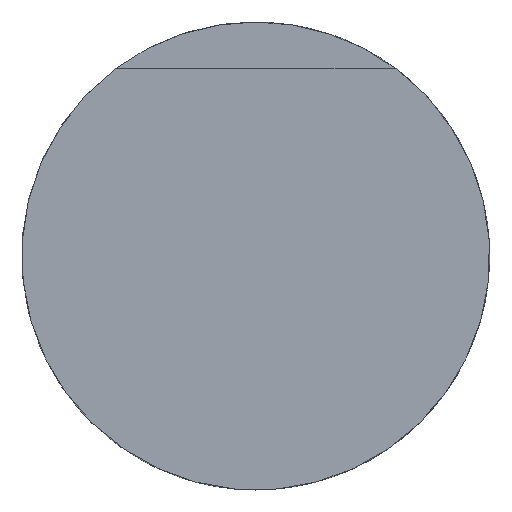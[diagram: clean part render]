
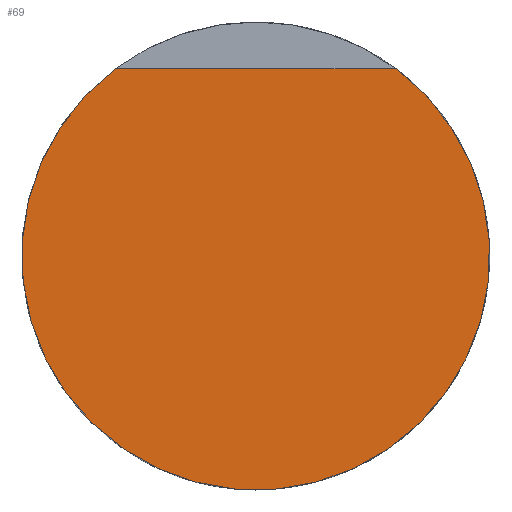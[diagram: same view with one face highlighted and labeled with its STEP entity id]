
A CAD part, front view. The second image highlights one B-rep face of the part: STEP entity #69.
In plain terms, the highlighted planar face has unit normal (0, -1, 0).
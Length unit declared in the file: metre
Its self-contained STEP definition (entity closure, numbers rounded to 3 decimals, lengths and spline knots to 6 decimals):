
#14=LINE('',#121,#18);
#18=VECTOR('',#101,1.);
#28=ORIENTED_EDGE('',*,*,#37,.F.);
#29=ORIENTED_EDGE('',*,*,#41,.T.);
#37=EDGE_CURVE('',#44,#45,#14,.T.);
#41=EDGE_CURVE('',#44,#45,#49,.T.);
#44=VERTEX_POINT('',#122);
#45=VERTEX_POINT('',#123);
#49=CIRCLE('',#90,0.0025);
#53=EDGE_LOOP('',(#28,#29));
#59=FACE_BOUND('',#53,.T.);
#65=PLANE('',#89);
#69=ADVANCED_FACE('',(#59),#65,.T.);
#89=AXIS2_PLACEMENT_3D('',#129,#108,#109);
#90=AXIS2_PLACEMENT_3D('',#130,#110,#111);
#101=DIRECTION('',(1.,0.,0.));
#108=DIRECTION('',(0.,-1.,0.));
#109=DIRECTION('',(0.,0.,-1.));
#110=DIRECTION('',(0.,-1.,0.));
#111=DIRECTION('',(0.,0.,-1.));
#121=CARTESIAN_POINT('',(-0.0015,-0.05255,0.002));
#122=CARTESIAN_POINT('',(-0.0015,-0.05255,0.002));
#123=CARTESIAN_POINT('',(0.0015,-0.05255,0.002));
#129=CARTESIAN_POINT('',(0.,-0.05255,0.));
#130=CARTESIAN_POINT('',(0.,-0.05255,0.));
